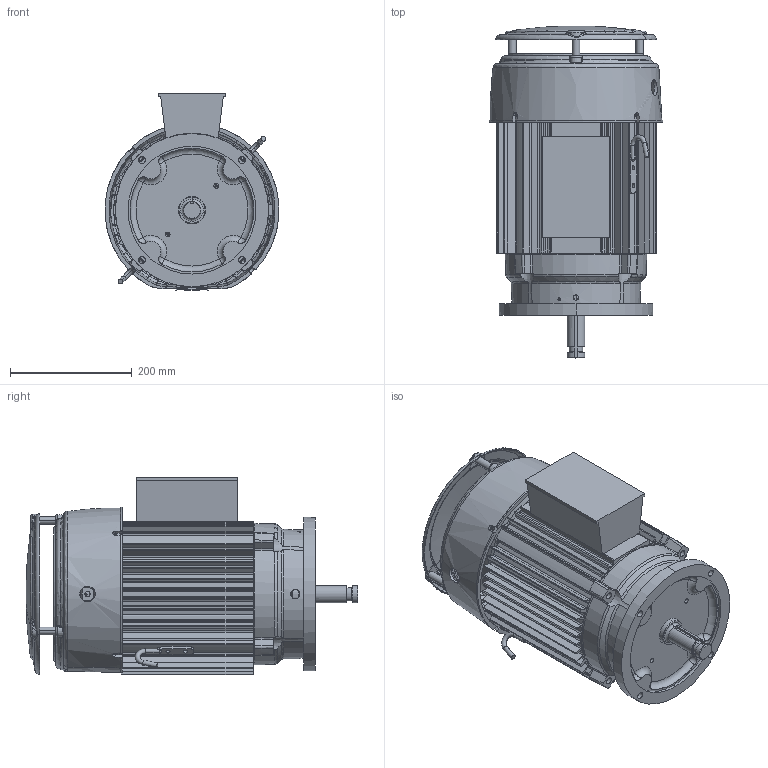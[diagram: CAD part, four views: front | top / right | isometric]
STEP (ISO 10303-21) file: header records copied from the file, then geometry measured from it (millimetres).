
FILE_DESCRIPTION((''),'2;1');
FILE_NAME('210AV_ASSY_ASM','2016-04-05T',('emd2341'),('Nidec Motor Corporation'),'PRO/ENGINEER BY PARAMETRIC TECHNOLOGY CORPORATION, 2013150','PRO/ENGINEER BY PARAMETRIC TECHNOLOGY CORPORATION, 2013150','');
FILE_SCHEMA(('CONFIG_CONTROL_DESIGN'));
Length unit declared in the file: inch
Products named in the file (13): 0744283; 0497892; 0298007-BKT_AF0; 0298180_AF0; 0298007-ASM_ASM; 0367414; OBB; 0358106-CVR; SHAFT; SPACER; 0169736-CAP; 0165363-HOK; 210AV_ASSY_ASM
Assembly tree (15 placements, depth 3):
  210AV_ASSY_ASM
    0744283
    0497892
    0298007-ASM_ASM
      0298007-BKT_AF0
      0298180_AF0
    0367414
    OBB
    0358106-CVR
    SHAFT
    SPACER  x3
    0169736-CAP
    0165363-HOK  x2
Bounding box: 284.79 x 544.42 x 323.24 mm (x, y, z)
Volume: 5323615.9 mm3; surface area: 1609679 mm2
Topology: 16 solids, 16 shells, 2663 faces, 7161 edges, 4473 vertices
Faces by surface type: bspline 765, cylinder 734, plane 565, torus 265, cone 256, sphere 78
Entity records: 118267 total; most frequent: CARTESIAN_POINT 58159, ORIENTED_EDGE 14116, DIRECTION 10781, EDGE_CURVE 7058, AXIS2_PLACEMENT_3D 4504, VERTEX_POINT 4420, EDGE_LOOP 2786, B_SPLINE_CURVE_WITH_KNOTS 2675
